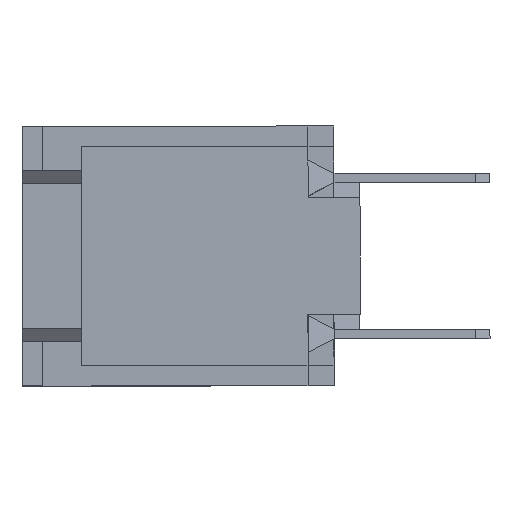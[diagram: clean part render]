
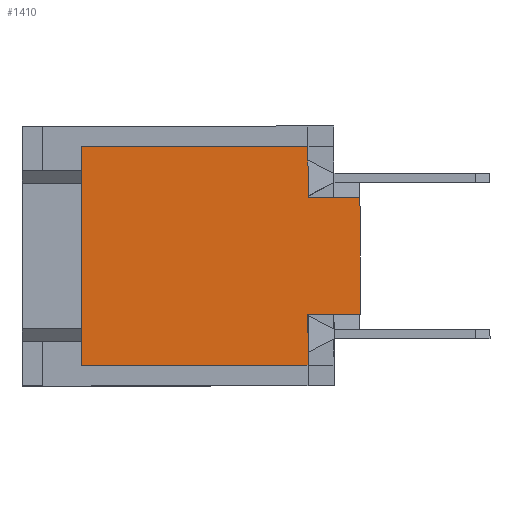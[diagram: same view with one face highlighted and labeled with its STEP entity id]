
A CAD part, left-side view. The second image highlights one B-rep face of the part: STEP entity #1410.
In plain terms, the highlighted planar face has unit normal (-1, 0, 0).
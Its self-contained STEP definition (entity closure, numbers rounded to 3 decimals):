
#687 = EDGE_CURVE ( 'NONE', #688, #858, #6040, .T. ) ;
#688 = VERTEX_POINT ( 'NONE', #6036 ) ;
#697 = EDGE_CURVE ( 'NONE', #824, #743, #6013, .T. ) ;
#743 = VERTEX_POINT ( 'NONE', #6209 ) ;
#752 = VERTEX_POINT ( 'NONE', #6258 ) ;
#824 = VERTEX_POINT ( 'NONE', #6501 ) ;
#834 = EDGE_CURVE ( 'NONE', #858, #859, #6486, .T. ) ;
#858 = VERTEX_POINT ( 'NONE', #6586 ) ;
#859 = VERTEX_POINT ( 'NONE', #6585 ) ;
#878 = EDGE_CURVE ( 'NONE', #859, #752, #6573, .T. ) ;
#1227 = EDGE_LOOP ( 'NONE', ( #1228, #1229, #1406, #1409, #1349, #1350, #1399, #1401 ) ) ;
#1228 = ORIENTED_EDGE ( 'NONE', *, *, #834, .T. ) ;
#1229 = ORIENTED_EDGE ( 'NONE', *, *, #878, .T. ) ;
#1348 = EDGE_CURVE ( 'NONE', #1361, #1408, #7966, .T. ) ;
#1349 = ORIENTED_EDGE ( 'NONE', *, *, #1360, .T. ) ;
#1350 = ORIENTED_EDGE ( 'NONE', *, *, #697, .T. ) ;
#1360 = EDGE_CURVE ( 'NONE', #1361, #824, #8146, .T. ) ;
#1361 = VERTEX_POINT ( 'NONE', #8074 ) ;
#1399 = ORIENTED_EDGE ( 'NONE', *, *, #1400, .T. ) ;
#1400 = EDGE_CURVE ( 'NONE', #743, #688, #8177, .T. ) ;
#1401 = ORIENTED_EDGE ( 'NONE', *, *, #687, .T. ) ;
#1406 = ORIENTED_EDGE ( 'NONE', *, *, #1407, .T. ) ;
#1407 = EDGE_CURVE ( 'NONE', #752, #1408, #8270, .T. ) ;
#1408 = VERTEX_POINT ( 'NONE', #8231 ) ;
#1409 = ORIENTED_EDGE ( 'NONE', *, *, #1348, .F. ) ;
#1410 = ADVANCED_FACE ( 'NONE', ( #8230 ), #8193, .T. ) ;
#5995 = DIRECTION ( 'NONE',  ( 0., -1., 0. ) ) ;
#6011 = VECTOR ( 'NONE', #5995, 1000. ) ;
#6012 = CARTESIAN_POINT ( 'NONE',  ( -16., 2., -4.2 ) ) ;
#6013 = LINE ( 'NONE', #6012, #6011 ) ;
#6036 = CARTESIAN_POINT ( 'NONE',  ( -16., 2., -2.25 ) ) ;
#6037 = DIRECTION ( 'NONE',  ( 0., -1., 0. ) ) ;
#6038 = VECTOR ( 'NONE', #6037, 1000. ) ;
#6039 = CARTESIAN_POINT ( 'NONE',  ( -16., 2., -2.25 ) ) ;
#6040 = LINE ( 'NONE', #6039, #6038 ) ;
#6209 = CARTESIAN_POINT ( 'NONE',  ( -16., 2., -4.2 ) ) ;
#6258 = CARTESIAN_POINT ( 'NONE',  ( -16., 2., 2.25 ) ) ;
#6483 = DIRECTION ( 'NONE',  ( 0., 0., 1. ) ) ;
#6484 = VECTOR ( 'NONE', #6483, 1000. ) ;
#6485 = CARTESIAN_POINT ( 'NONE',  ( -16., 0., -4.2 ) ) ;
#6486 = LINE ( 'NONE', #6485, #6484 ) ;
#6501 = CARTESIAN_POINT ( 'NONE',  ( -16., 10.7, -4.2 ) ) ;
#6570 = DIRECTION ( 'NONE',  ( 0., 1., 0. ) ) ;
#6571 = VECTOR ( 'NONE', #6570, 1000. ) ;
#6572 = CARTESIAN_POINT ( 'NONE',  ( -16., 2., 2.25 ) ) ;
#6573 = LINE ( 'NONE', #6572, #6571 ) ;
#6585 = CARTESIAN_POINT ( 'NONE',  ( -16., 0., 2.25 ) ) ;
#6586 = CARTESIAN_POINT ( 'NONE',  ( -16., 0., -2.25 ) ) ;
#7963 = DIRECTION ( 'NONE',  ( 0., -1., 0. ) ) ;
#7964 = VECTOR ( 'NONE', #7963, 1000. ) ;
#7965 = CARTESIAN_POINT ( 'NONE',  ( -16., 2., 4.2 ) ) ;
#7966 = LINE ( 'NONE', #7965, #7964 ) ;
#8074 = CARTESIAN_POINT ( 'NONE',  ( -16., 10.7, 4.2 ) ) ;
#8075 = DIRECTION ( 'NONE',  ( 0., 0., -1. ) ) ;
#8076 = VECTOR ( 'NONE', #8075, 1000. ) ;
#8145 = CARTESIAN_POINT ( 'NONE',  ( -16., 10.7, -4.2 ) ) ;
#8146 = LINE ( 'NONE', #8145, #8076 ) ;
#8176 = CARTESIAN_POINT ( 'NONE',  ( -16., 2., 4.2 ) ) ;
#8177 = LINE ( 'NONE', #8176, #8244 ) ;
#8189 = DIRECTION ( 'NONE',  ( 0., 0., 1. ) ) ;
#8190 = DIRECTION ( 'NONE',  ( -1., 0., 0. ) ) ;
#8191 = CARTESIAN_POINT ( 'NONE',  ( -16., 2., -4.2 ) ) ;
#8192 = AXIS2_PLACEMENT_3D ( 'NONE', #8191, #8190, #8189 ) ;
#8193 = PLANE ( 'NONE',  #8192 ) ;
#8204 = DIRECTION ( 'NONE',  ( 0., 0., 1. ) ) ;
#8205 = VECTOR ( 'NONE', #8204, 1000. ) ;
#8206 = CARTESIAN_POINT ( 'NONE',  ( -16., 2., 4.2 ) ) ;
#8230 = FACE_OUTER_BOUND ( 'NONE', #1227, .T. ) ;
#8231 = CARTESIAN_POINT ( 'NONE',  ( -16., 2., 4.2 ) ) ;
#8243 = DIRECTION ( 'NONE',  ( 0., 0., 1. ) ) ;
#8244 = VECTOR ( 'NONE', #8243, 1000. ) ;
#8270 = LINE ( 'NONE', #8206, #8205 ) ;
